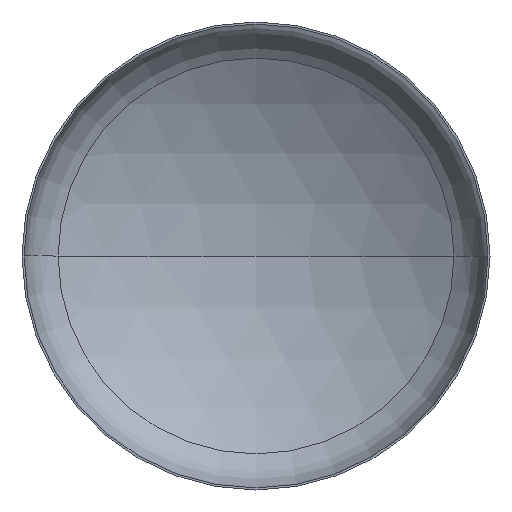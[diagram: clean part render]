
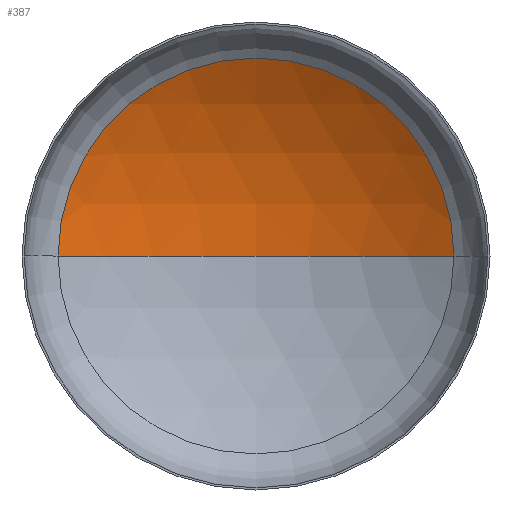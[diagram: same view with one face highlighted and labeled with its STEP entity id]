
A CAD part, front view. The second image highlights one B-rep face of the part: STEP entity #387.
In plain terms, the highlighted spherical face has radius 2880 mm.
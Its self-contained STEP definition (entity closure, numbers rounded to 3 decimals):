
#12 = ORIENTED_EDGE ( 'NONE', *, *, #359, .T. ) ;
#13 = AXIS2_PLACEMENT_3D ( 'NONE', #218, #373, #243 ) ;
#14 = AXIS2_PLACEMENT_3D ( 'NONE', #306, #166, #327 ) ;
#22 = VERTEX_POINT ( 'NONE', #142 ) ;
#29 = AXIS2_PLACEMENT_3D ( 'NONE', #371, #239, #397 ) ;
#30 = VERTEX_POINT ( 'NONE', #223 ) ;
#42 = AXIS2_PLACEMENT_3D ( 'NONE', #192, #133, #404 ) ;
#49 = ORIENTED_EDGE ( 'NONE', *, *, #352, .T. ) ;
#66 = ORIENTED_EDGE ( 'NONE', *, *, #341, .F. ) ;
#78 = FACE_OUTER_BOUND ( 'NONE', #138, .T. ) ;
#133 = DIRECTION ( 'NONE',  ( 0., 0., -1. ) ) ;
#134 = CIRCLE ( 'NONE', #13, 2880. ) ;
#138 = EDGE_LOOP ( 'NONE', ( #66, #12, #49 ) ) ;
#141 = VERTEX_POINT ( 'NONE', #278 ) ;
#142 = CARTESIAN_POINT ( 'NONE',  ( -1522.374, 526.123, 0. ) ) ;
#166 = DIRECTION ( 'NONE',  ( 0., -1., 0. ) ) ;
#192 = CARTESIAN_POINT ( 'NONE',  ( 0., -1918.622, 0. ) ) ;
#209 = CIRCLE ( 'NONE', #29, 2880. ) ;
#218 = CARTESIAN_POINT ( 'NONE',  ( 0., -1918.622, 0. ) ) ;
#223 = CARTESIAN_POINT ( 'NONE',  ( 1522.374, 526.123, 0. ) ) ;
#239 = DIRECTION ( 'NONE',  ( 0., 0., 1. ) ) ;
#243 = DIRECTION ( 'NONE',  ( -1., 0., 0. ) ) ;
#257 = SPHERICAL_SURFACE ( 'NONE', #42, 2880. ) ;
#265 = CIRCLE ( 'NONE', #14, 1522.374 ) ;
#278 = CARTESIAN_POINT ( 'NONE',  ( 0., 961.378, 0. ) ) ;
#306 = CARTESIAN_POINT ( 'NONE',  ( 0., 526.123, 0. ) ) ;
#327 = DIRECTION ( 'NONE',  ( 1., 0., 0. ) ) ;
#341 = EDGE_CURVE ( 'NONE', #141, #22, #209, .T. ) ;
#352 = EDGE_CURVE ( 'NONE', #30, #22, #265, .T. ) ;
#359 = EDGE_CURVE ( 'NONE', #141, #30, #134, .T. ) ;
#371 = CARTESIAN_POINT ( 'NONE',  ( 0., -1918.622, 0. ) ) ;
#373 = DIRECTION ( 'NONE',  ( 0., 0., -1. ) ) ;
#387 = ADVANCED_FACE ( 'NONE', ( #78 ), #257, .F. ) ;
#397 = DIRECTION ( 'NONE',  ( 1., 0., 0. ) ) ;
#404 = DIRECTION ( 'NONE',  ( -1., 0., 0. ) ) ;
